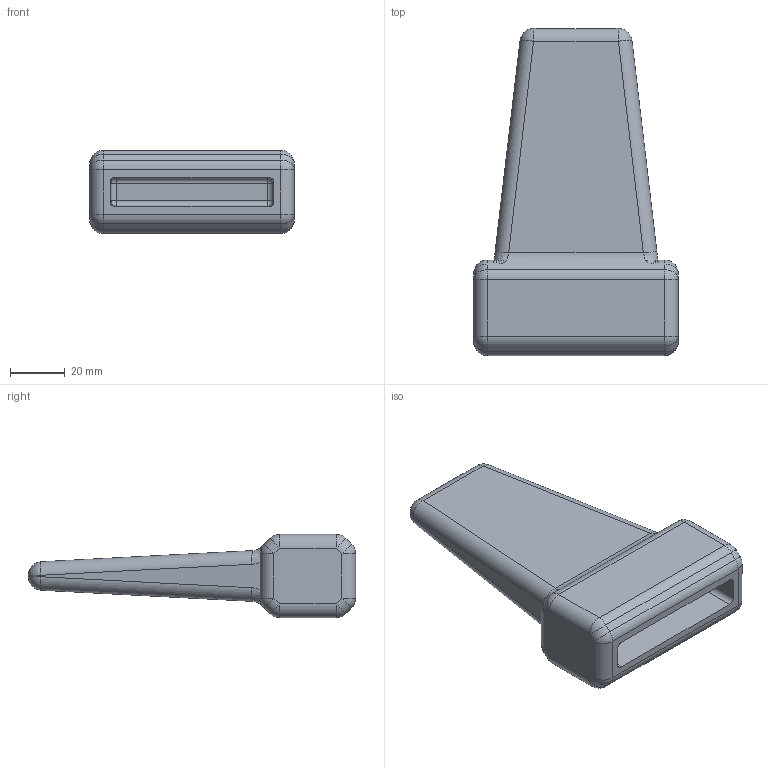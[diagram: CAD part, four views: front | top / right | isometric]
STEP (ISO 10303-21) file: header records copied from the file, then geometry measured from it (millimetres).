
FILE_DESCRIPTION (( 'STEP AP214' ), '1' );
FILE_NAME ('Ðóêîÿòêà äîïîëíèòåëüíàÿ.STEP', '2023-02-13T12:15:25', ( '' ), ( '' ), 'SwSTEP 2.0', 'SolidWorks 2018', '' );
FILE_SCHEMA (( 'AUTOMOTIVE_DESIGN' ));
Length unit declared in the file: millimetre
Products named in the file (1): Ðóêîÿòêà äîïîëíèòåëüíàÿ
Bounding box: 75 x 120 x 30.5 mm (x, y, z)
Volume: 123479.6 mm3; surface area: 22078.3 mm2
Topology: 1 solids, 1 shells, 107 faces, 248 edges, 124 vertices
Faces by surface type: cylinder 48, plane 27, sphere 24, bspline 8
Entity records: 3172 total; most frequent: CARTESIAN_POINT 924, DIRECTION 476, ORIENTED_EDGE 456, EDGE_CURVE 228, AXIS2_PLACEMENT_3D 180, VERTEX_POINT 124, LINE 116, VECTOR 116
